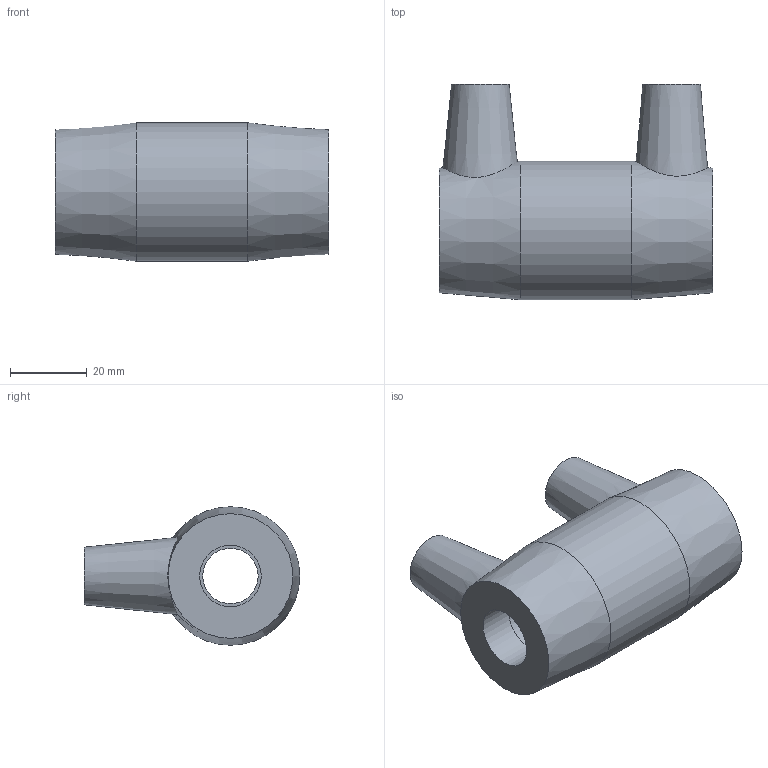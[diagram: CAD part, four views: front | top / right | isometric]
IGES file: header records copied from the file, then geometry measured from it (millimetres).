
Global section: file name: 491104025016.ipt; native system: Autodesk Inventor 2019; preprocessor: unknown; author: KIM; date: 20201207.222506; units: millimetre
Bounding box: 71 x 56 x 36 mm (x, y, z)
Volume: 51610 mm3; surface area: 17218.4 mm2
Topology: 1 solids, 1 shells, 29 faces, 67 edges, 48 vertices
Faces by surface type: plane 12, revolution 9, cone 5, cylinder 3
Full cylindrical faces by diameter (mm): 4 x2, 36 x1
